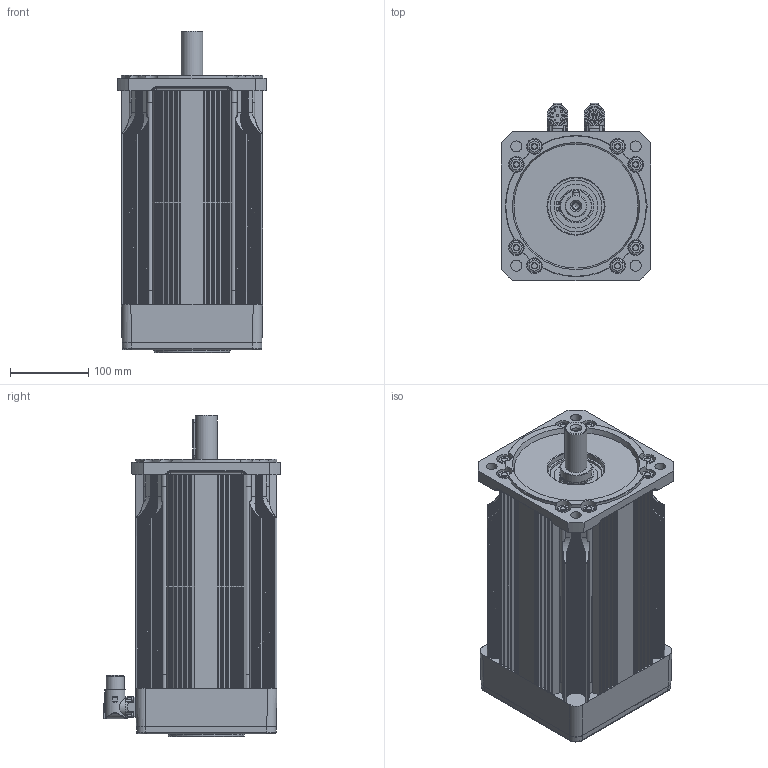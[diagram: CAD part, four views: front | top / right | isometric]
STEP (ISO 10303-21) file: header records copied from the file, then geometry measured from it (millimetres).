
FILE_DESCRIPTION( ( 'Unknown' ), '1' );
FILE_NAME( 'C:/Users/carpi/Desktop/step/Q00840_22,5.stp', 'Unknown', ( 'Unknown' ), ( 'Unknown' ), 'PSStep 14.0', 'Unknown', ' ' );
FILE_SCHEMA( ( 'AUTOMOTIVE_DESIGN { 1 0 10303 214 1 1 1 1 }' ) );
Length unit declared in the file: millimetre
Products named in the file (35): Assem1; N33801; CUSC_40_90_23_6308_ZZ; N09815; A-Ela 40 P; N11800; N49800_300; N49800_300-oa0; N49800_300-oa1; N49800_300-oa2; N49800_300-oa3; N49800_300-oa4; N49800_300-oa5; N49800_300-oa6; DEFDB M  8; DEFDB M  8-oa7; DEFDB M  8-oa8; DEFDB M  8-oa9; DEFDB M  8-oa10; DEFDB M  8-oa11; DEFDB M  8-oa12; DEFDB M  8-oa13; Vite a brugola testa cil 8,8 -  M 2,5 x 8; Vite a brugola testa cil 8,8 -  M  5 x 16; CN M23 PAN-SEG AEDC 139 17 pin 90°o SpTcR; CN M23 PAN-POT BEDC 110 4+4 pin 90°o SpTcR; LI-PIA   8x7 x 50; N01836; N25800_L272
Assembly tree (44 placements, depth 2):
  Assem1
    N33801
    CUSC_40_90_23_6308_ZZ
    CUSC_40_90_23_6308_ZZ
    CUSC_40_90_23_6308_ZZ
    CUSC_40_90_23_6308_ZZ
    CUSC_40_90_23_6308_ZZ
    CUSC_40_90_23_6308_ZZ
    CUSC_40_90_23_6308_ZZ
    N09815
    A-Ela 40 P
    N11800
    N49800_300
    N49800_300-oa0
    N49800_300-oa1
    N49800_300-oa2
    N49800_300-oa3
    N49800_300-oa4
    N49800_300-oa5
    N49800_300-oa6
    DEFDB M  8
    DEFDB M  8-oa7
    DEFDB M  8-oa8
    DEFDB M  8-oa9
    DEFDB M  8-oa10
    DEFDB M  8-oa11
    DEFDB M  8-oa12
    DEFDB M  8-oa13
    Vite a brugola testa cil 8,8 -  M 2,5 x 8  x8
    Vite a brugola testa cil 8,8 -  M  5 x 16  x4
    CN M23 PAN-SEG AEDC 139 17 pin 90°o SpTcR
    CN M23 PAN-POT BEDC 110 4+4 pin 90°o SpTcR
    LI-PIA   8x7 x 50
    N01836
    N25800_L272
Bounding box: 189.97 x 226.43 x 410 mm (x, y, z)
Volume: 3907957.9 mm3; surface area: 1097142.8 mm2
Topology: 44 solids, 45 shells, 2234 faces, 5656 edges, 3572 vertices
Faces by surface type: cylinder 1034, plane 667, bspline 201, cone 143, torus 107, sphere 82
Full cylindrical faces by diameter (mm): 2 x21, 2.013 x8, 2.5 x10, 2.7 x8, 3 x4, 3.242 x1, 3.3 x4, 4.134 x1, 4.2 x4, 4.7 x8, 5 x8, 5.5 x4, 6.647 x4, 6.8 x8, 7.8 x8, 8 x24, 8.376 x1, 8.5 x12, 10 x4, 10.5 x1, 12 x1, 14 x4, 17 x2, 17.9 x8, 19.8 x2, 20 x11, 21.3 x2, 23 x2, 24.5 x2, 28 x1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
Entity records: 91404 total; most frequent: CARTESIAN_POINT 31397, DIRECTION 9981, ORIENTED_EDGE 9738, EDGE_CURVE 4869, AXIS2_PLACEMENT_3D 4094, VERTEX_POINT 3266, EDGE_LOOP 2564, FACE_OUTER_BOUND 2293
